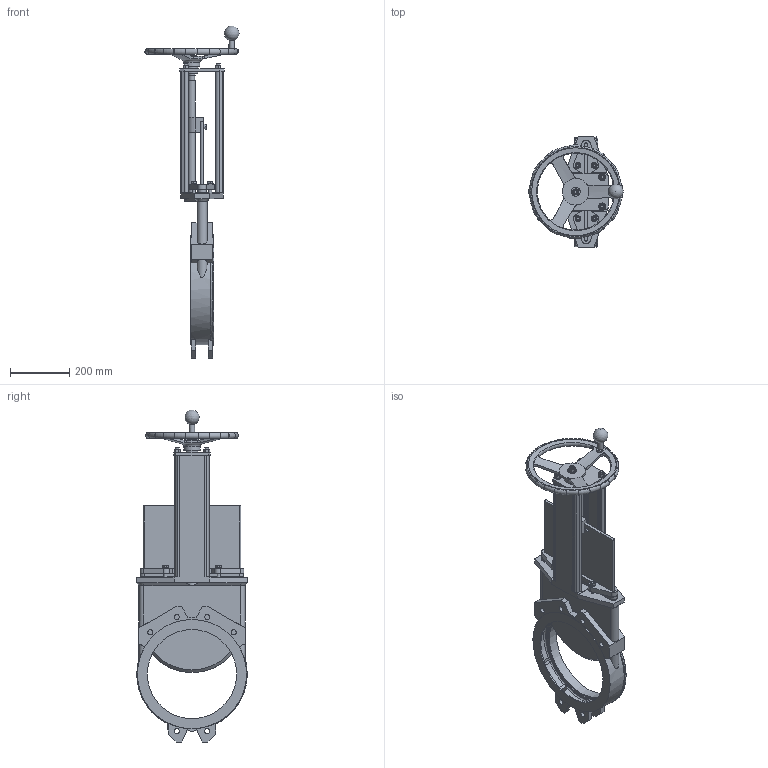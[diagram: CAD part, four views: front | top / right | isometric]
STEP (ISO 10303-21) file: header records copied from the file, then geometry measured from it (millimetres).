
FILE_DESCRIPTION(('STEP AP203'),'1');
FILE_NAME('G:/KONSTRUK/3-d block för CD/MV VALVE/HAND WHEEL/MV300-PN10-HW.stp','2011-09-12T14:23:53',(' '),(' '),'Spatial InterOp 3D',' ',' ');
FILE_SCHEMA(('CONFIG_CONTROL_DESIGN'));
Length unit declared in the file: metre
Products named in the file (1): 1
Bounding box: 318.75 x 375 x 1124.49 mm (x, y, z)
Volume: 8254649.1 mm3; surface area: 1771611.8 mm2
Topology: 1 solids, 14 shells, 856 faces, 2141 edges, 1376 vertices
Faces by surface type: plane 427, cylinder 209, cone 182, torus 31, bspline 6, sphere 1
Full cylindrical faces by diameter (mm): 6.75 x2, 8.5 x4, 10 x4, 10.25 x9, 10.791 x4, 12 x13, 12.793 x6, 13 x6, 15 x5, 17.5 x12, 18 x1, 19.715 x4, 20 x2, 20.5 x1, 23 x1, 24 x7, 26.4 x1, 26.5 x1, 27 x1, 30.35 x1, 40 x2, 55 x1, 297 x1, 298 x1, 302 x2, 312 x2, 328 x1, 346 x2, 346.2 x1, 370 x1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
Entity records: 27971 total; most frequent: CARTESIAN_POINT 8606, DIRECTION 3985, ORIENTED_EDGE 3826, EDGE_CURVE 1913, AXIS2_PLACEMENT_3D 1587, VERTEX_POINT 1300, EDGE_LOOP 1127, FACE_OUTER_BOUND 959
